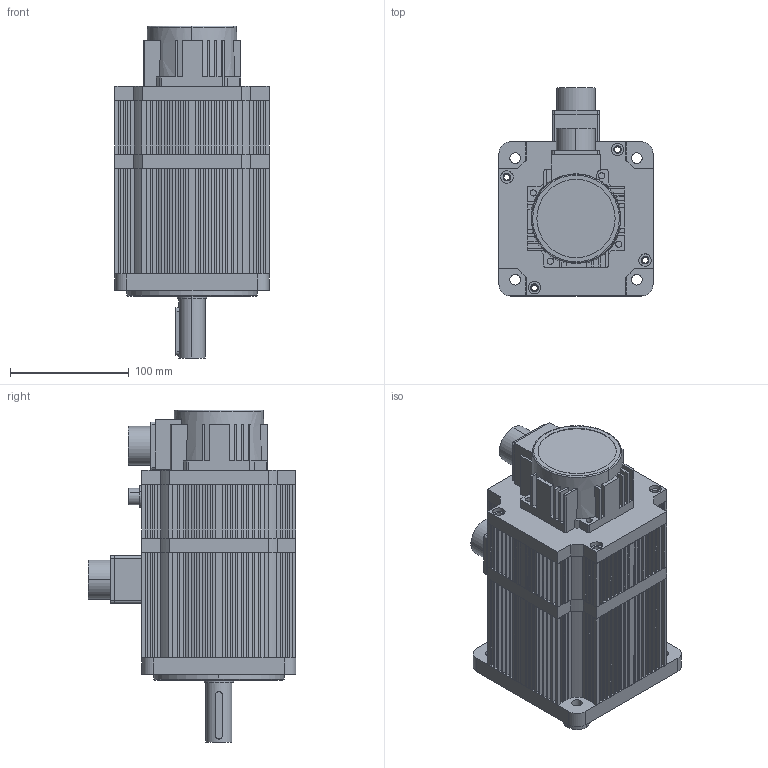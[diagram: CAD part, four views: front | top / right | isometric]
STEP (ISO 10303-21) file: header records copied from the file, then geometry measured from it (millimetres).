
FILE_DESCRIPTION (( 'STEP AP203' ), '1' );
FILE_NAME ('ASMJ-13-1025B-G342-01.STEP', '2024-04-08T06:42:49', ( 'Admin' ), ( '' ), 'SwSTEP 2.0', 'SolidWorks 2018', '' );
FILE_SCHEMA (( 'CONFIG_CONTROL_DESIGN' ));
Length unit declared in the file: millimetre
Products named in the file (1): ASMJ-13-1025B-G342-01
Bounding box: 130 x 175.3 x 280 mm (x, y, z)
Volume: 914352.6 mm3; surface area: 450775.5 mm2
Topology: 13 solids, 13 shells, 1311 faces, 3655 edges, 2376 vertices
Faces by surface type: plane 807, cylinder 434, bspline 52, cone 18
Entity records: 43931 total; most frequent: CARTESIAN_POINT 9924, ORIENTED_EDGE 7174, DIRECTION 6913, EDGE_CURVE 3587, VECTOR 2545, LINE 2545, VERTEX_POINT 2376, AXIS2_PLACEMENT_3D 2184
